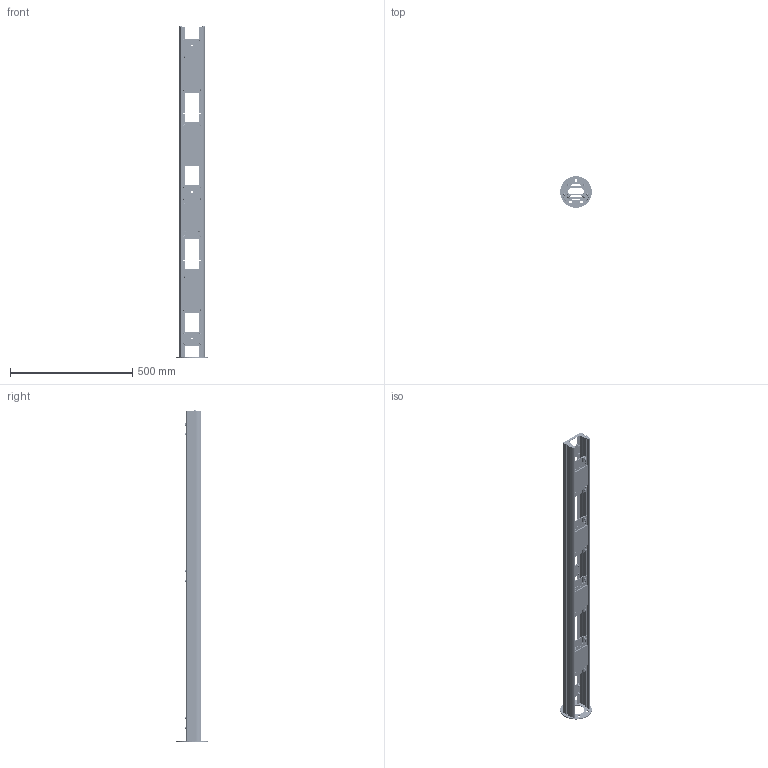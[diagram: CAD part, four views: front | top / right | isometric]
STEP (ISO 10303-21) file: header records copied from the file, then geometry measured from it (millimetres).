
FILE_DESCRIPTION(/* description */ (''),/* implementation_level */ '2;1');
FILE_NAME(/* name */ '0003A__4_INDIPENDENT_MIRRORS_1350mm.stp',/* time_stamp */ '2025-11-26T15:25:12+01:00',/* author */ (''),/* organization */ (''),/* preprocessor_version */ 'ST-DEVELOPER v20',/* originating_system */ 'SIEMENS PLM Software NX2412.4001',/* authorisation */ '');
FILE_SCHEMA (('AP203_CONFIGURATION_CONTROLLED_3D_DESIGN_OF_MECHANICAL_PARTS_AND_ASSEMBLIES_MIM_LF { 1 0 10303 403 2 1 2}'));
Products named in the file (1): AS007806_objects
Bounding box: 130 x 130 x 1358.25 mm (x, y, z)
Volume: 5234051.5 mm3; surface area: 5325634.5 mm2
Topology: 253 solids, 253 shells, 9527 faces, 25538 edges, 16593 vertices
Faces by surface type: plane 4984, cylinder 2551, cone 1782, torus 152, bspline 54, sphere 4
Full cylindrical faces by diameter (mm): 0.1 x4, 3.3 x12, 3.838 x12, 4.2 x28, 4.3 x12, 4.826 x256, 5 x260, 5.2 x32, 5.25 x2, 5.3 x12, 5.5 x56, 5.6 x12, 5.795 x28, 7 x40, 7.2 x4, 8.5 x44, 9 x28, 10 x12, 12 x7, 15 x16, 68 x1, 130 x1
Entity records: 386665 total; most frequent: CARTESIAN_POINT 149454, DIRECTION 50848, ORIENTED_EDGE 46680, EDGE_CURVE 23340, AXIS2_PLACEMENT_3D 19544, VERTEX_POINT 15692, LINE 11760, VECTOR 11760
